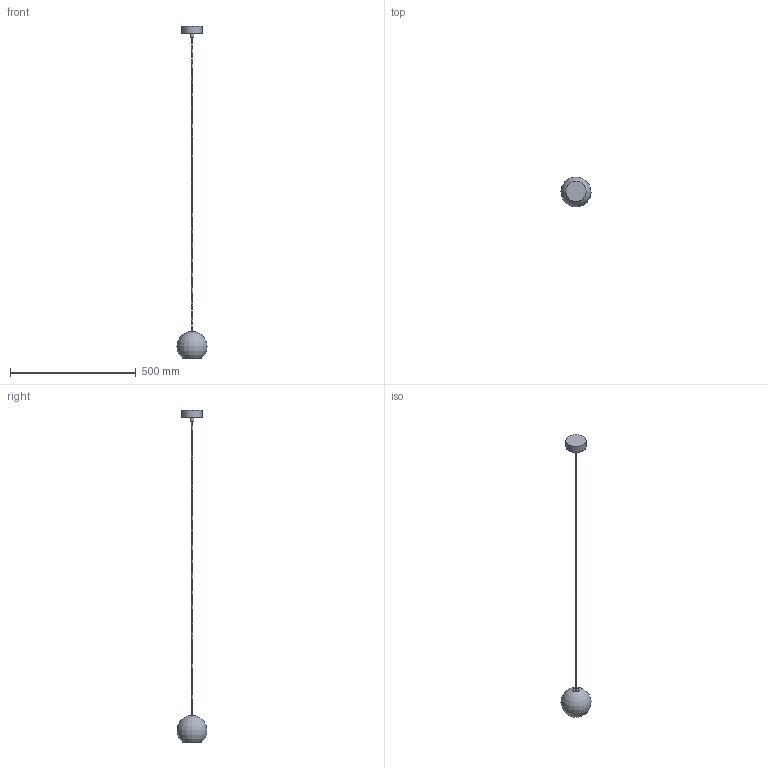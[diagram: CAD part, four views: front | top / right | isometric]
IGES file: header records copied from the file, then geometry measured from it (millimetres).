
Start section: SolidWorks IGES file using analytic representation for surfaces
Global section: file name: X:\PRODUKT\Modele 3D_WWW\_KOLEKCJE WWW\GEOMETRIC-9696\GEOMETRIC-9696.IGS; native system: SolidWorks 2021; preprocessor: SolidWorks 2021; author: gabriela.tworek; date: 221104.083008; units: millimetre
Bounding box: 119.88 x 118.7 x 1319.44 mm (x, y, z)
Surface area: 98966.9 mm2 (no closed solid volume)
Topology: 0 solids, 0 shells, 25 faces, 47 edges, 36 vertices
Faces by surface type: bspline 16, revolution 9
